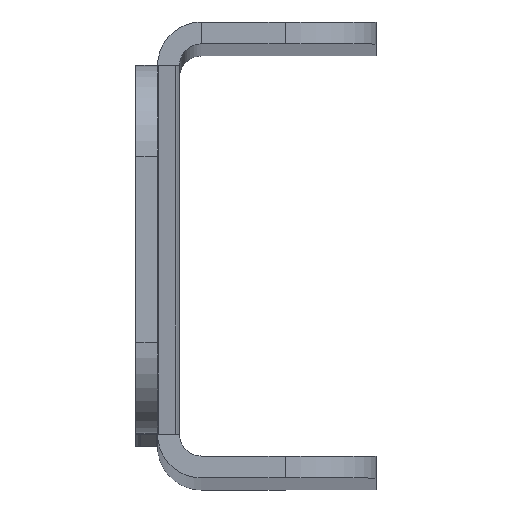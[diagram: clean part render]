
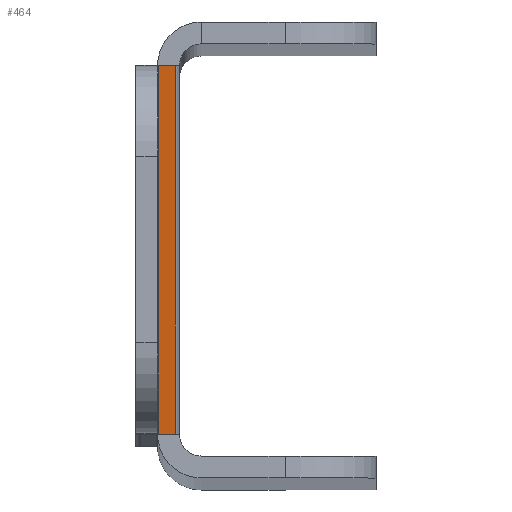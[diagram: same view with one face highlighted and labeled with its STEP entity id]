
A CAD part, top view. The second image highlights one B-rep face of the part: STEP entity #464.
In plain terms, the highlighted planar face has unit normal (0.866, 0, 0.5).
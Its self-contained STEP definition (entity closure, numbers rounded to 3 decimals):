
#32 = EDGE_CURVE ( 'NONE', #4082, #1837, #1128, .T. ) ;
#230 = DIRECTION ( 'NONE',  ( -0.866, 0., -0.5 ) ) ;
#464 = ADVANCED_FACE ( 'NONE', ( #3195 ), #3525, .F. ) ;
#564 = CARTESIAN_POINT ( 'NONE',  ( -7.765, 12.5, 206.028 ) ) ;
#628 = ORIENTED_EDGE ( 'NONE', *, *, #3481, .F. ) ;
#750 = EDGE_CURVE ( 'NONE', #3771, #3408, #1468, .T. ) ;
#828 = CARTESIAN_POINT ( 'NONE',  ( -7.765, -10.1, 206.028 ) ) ;
#881 = CARTESIAN_POINT ( 'NONE',  ( 0.959, 12.5, 190.918 ) ) ;
#898 = VECTOR ( 'NONE', #1156, 1000. ) ;
#1090 = CARTESIAN_POINT ( 'NONE',  ( 0.08, -10.1, 192.439 ) ) ;
#1128 = LINE ( 'NONE', #828, #3606 ) ;
#1156 = DIRECTION ( 'NONE',  ( 0., 1., 0. ) ) ;
#1198 = DIRECTION ( 'NONE',  ( 0., 1., 0. ) ) ;
#1468 = LINE ( 'NONE', #3730, #1823 ) ;
#1768 = EDGE_CURVE ( 'NONE', #1837, #3408, #4055, .T. ) ;
#1823 = VECTOR ( 'NONE', #4004, 1000. ) ;
#1827 = CARTESIAN_POINT ( 'NONE',  ( 0.08, 10.1, 192.439 ) ) ;
#1837 = VERTEX_POINT ( 'NONE', #3469 ) ;
#1995 = CARTESIAN_POINT ( 'NONE',  ( 0.959, 10.1, 190.918 ) ) ;
#2028 = ORIENTED_EDGE ( 'NONE', *, *, #32, .T. ) ;
#2095 = EDGE_LOOP ( 'NONE', ( #628, #2028, #3707, #2260 ) ) ;
#2147 = VECTOR ( 'NONE', #1198, 1000. ) ;
#2156 = DIRECTION ( 'NONE',  ( 0., -1., 0. ) ) ;
#2260 = ORIENTED_EDGE ( 'NONE', *, *, #750, .F. ) ;
#2612 = LINE ( 'NONE', #3915, #2147 ) ;
#3195 = FACE_OUTER_BOUND ( 'NONE', #2095, .T. ) ;
#3408 = VERTEX_POINT ( 'NONE', #1995 ) ;
#3418 = DIRECTION ( 'NONE',  ( 0.5, 0., -0.866 ) ) ;
#3469 = CARTESIAN_POINT ( 'NONE',  ( 0.959, -10.1, 190.918 ) ) ;
#3481 = EDGE_CURVE ( 'NONE', #4082, #3771, #2612, .T. ) ;
#3525 = PLANE ( 'NONE',  #4112 ) ;
#3606 = VECTOR ( 'NONE', #3418, 1000. ) ;
#3707 = ORIENTED_EDGE ( 'NONE', *, *, #1768, .T. ) ;
#3730 = CARTESIAN_POINT ( 'NONE',  ( -7.765, 10.1, 206.028 ) ) ;
#3771 = VERTEX_POINT ( 'NONE', #1827 ) ;
#3915 = CARTESIAN_POINT ( 'NONE',  ( 0.08, 12.5, 192.439 ) ) ;
#4004 = DIRECTION ( 'NONE',  ( 0.5, 0., -0.866 ) ) ;
#4055 = LINE ( 'NONE', #881, #898 ) ;
#4082 = VERTEX_POINT ( 'NONE', #1090 ) ;
#4112 = AXIS2_PLACEMENT_3D ( 'NONE', #564, #230, #2156 ) ;
